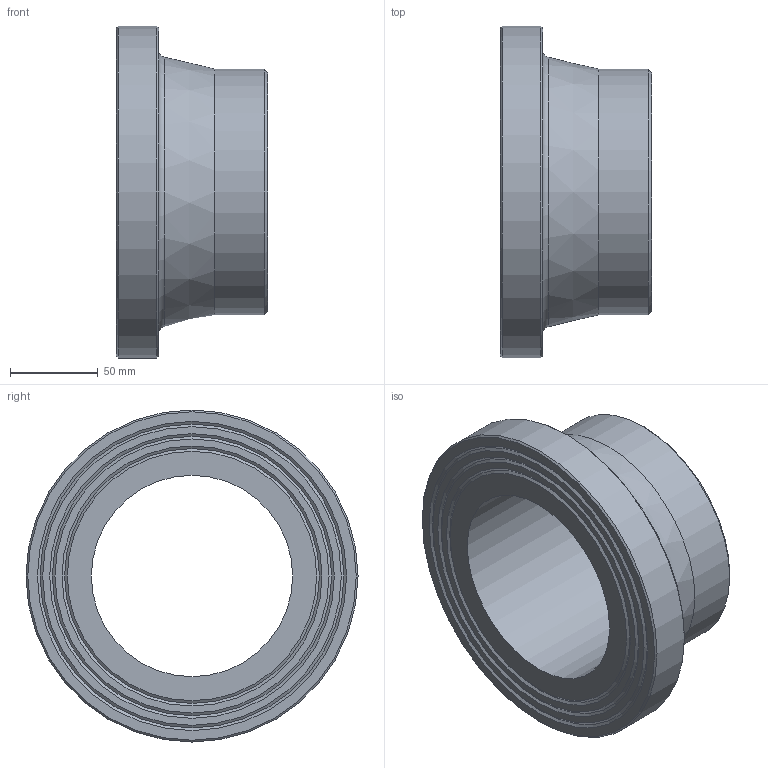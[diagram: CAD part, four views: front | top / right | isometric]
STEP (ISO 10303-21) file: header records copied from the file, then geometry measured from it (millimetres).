
FILE_DESCRIPTION(/* description */ ('Unknown'),/* implementation_level */ '2;1');
FILE_NAME(/* name */ 'CCP140C',/* time_stamp */ '2022-04-04T14:50:13+02:00',/* author */ ('Unknown'),/* organization */ ('Unknown'),/* preprocessor_version */ 'ST-DEVELOPER v18.1',/* originating_system */ 'Solid Edge',/* authorisation */ 'Unknown');
FILE_SCHEMA (('AUTOMOTIVE_DESIGN {1 0 10303 214 3 1 1}'));
Length unit declared in the file: millimetre
Products named in the file (1): CCP140C
Bounding box: 86 x 189 x 189 mm (x, y, z)
Volume: 792360.1 mm3; surface area: 105031.3 mm2
Topology: 1 solids, 1 shells, 20 faces, 35 edges, 21 vertices
Faces by surface type: cone 10, plane 6, cylinder 3, torus 1
Full cylindrical faces by diameter (mm): 114.6 x1, 140 x1, 189 x1
Entity records: 438 total; most frequent: DIRECTION 82, CARTESIAN_POINT 61, AXIS2_PLACEMENT_3D 41, ORIENTED_EDGE 40, EDGE_LOOP 40, FACE_BOUND 40, EDGE_CURVE 20, VERTEX_POINT 20
